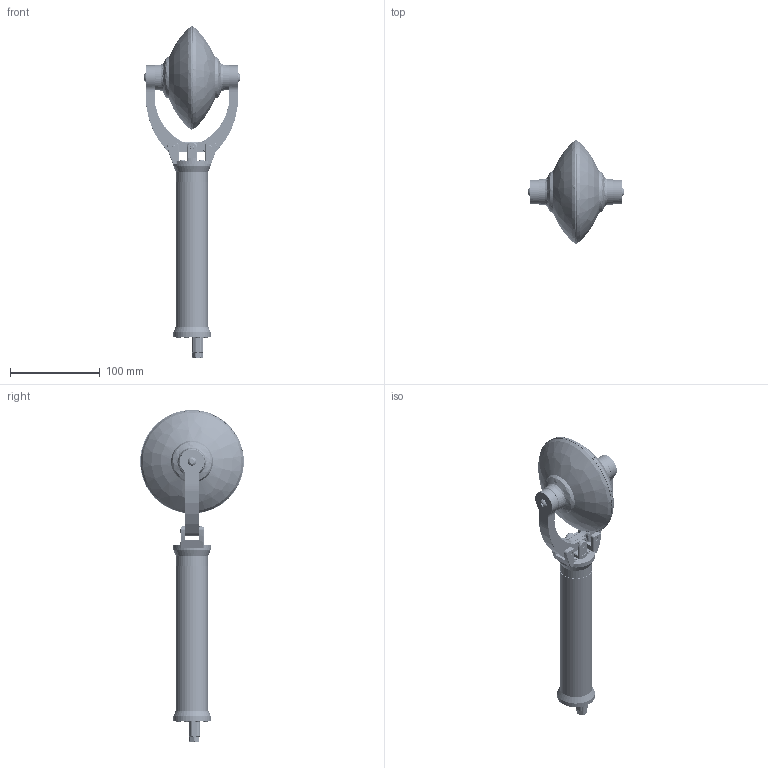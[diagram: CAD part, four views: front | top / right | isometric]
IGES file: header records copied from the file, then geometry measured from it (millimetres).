
Start section: SolidWorks IGES file using analytic representation for surfaces
Global section: file name: G:\Shared drives\BR - R&D\01 - ECOs\eco10218-sediment-sampler\release\Public CAD\NEWTON-SEDIMENT-SAMPLER-PUBLIC.IGS; native system: SolidWorks 2024; preprocessor: SolidWorks 2024; author: brian; date: 240213.161300; units: millimetre
Bounding box: 107.52 x 115.32 x 369.62 mm (x, y, z)
Surface area: 144802 mm2 (no closed solid volume)
Topology: 0 solids, 0 shells, 1512 faces, 23606 edges, 23574 vertices
Faces by surface type: revolution 1044, bspline 468
